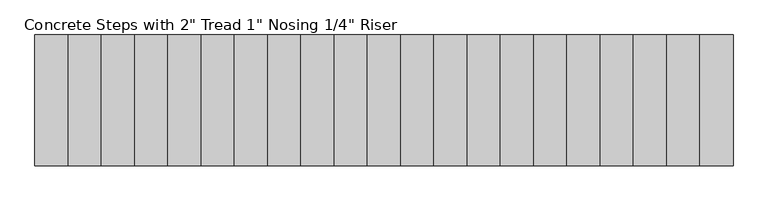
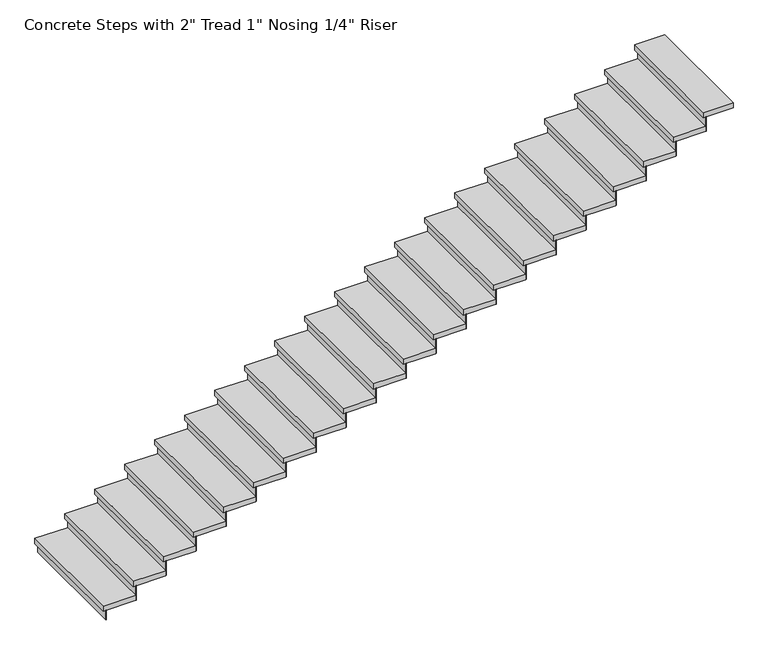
"""IFC4 building model written with IfcOpenShell, lengths in millimetres: stair flight geometry."""

from ifc_helpers import new_model, si_unit, frame, origin, origin_with_axes, place, context, project, spatial, polyline, outline, extrude, source, transform, mapped, element, save


def stair_flight_f9da9db6(model_context):
    return source(origin(), model_context, "Body", "SweptSolid", [
        extrude(outline(polyline([(-38912.5313244, -18551.5554387), (-38918.8813244, -18551.5554387), (-38918.8813244, -17453.1554387), (-38912.5313244, -17453.1554387), (-38912.5313244, -18551.5554387)])), origin_with_axes(), (0.0, 0.0, 1.0), 94.3428571),
        extrude(outline(polyline([(-38639.4813244, -17453.1554387), (-38639.4813244, -18551.5554387), (-38944.2813244, -18551.5554387), (-38944.2813244, -17453.1554387), (-38639.4813244, -17453.1554387)])), frame((0.0, 0.0, 94.3428571), z_axis=(0.0, 0.0, 1.0), x_axis=(1.0, 0.0, 0.0)), (0.0, 0.0, 1.0), 50.8),
        extrude(outline(polyline([(-38633.1313244, -18551.5554387), (-38639.4813244, -18551.5554387), (-38639.4813244, -17453.1554387), (-38633.1313244, -17453.1554387), (-38633.1313244, -18551.5554387)])), frame((0.0, 0.0, 94.3428571), z_axis=(0.0, 0.0, 1.0), x_axis=(1.0, 0.0, 0.0)), (0.0, 0.0, 1.0), 145.1428571),
        extrude(outline(polyline([(-38360.0813244, -17453.1554387), (-38360.0813244, -18551.5554387), (-38664.8813244, -18551.5554387), (-38664.8813244, -17453.1554387), (-38360.0813244, -17453.1554387)])), frame((0.0, 0.0, 239.4857143), z_axis=(0.0, 0.0, 1.0), x_axis=(1.0, 0.0, 0.0)), (0.0, 0.0, 1.0), 50.8),
        extrude(outline(polyline([(-38353.7313244, -18551.5554387), (-38360.0813244, -18551.5554387), (-38360.0813244, -17453.1554387), (-38353.7313244, -17453.1554387), (-38353.7313244, -18551.5554387)])), frame((0.0, 0.0, 239.4857143), z_axis=(0.0, 0.0, 1.0), x_axis=(1.0, 0.0, 0.0)), (0.0, 0.0, 1.0), 145.1428571),
        extrude(outline(polyline([(-38080.6813244, -17453.1554387), (-38080.6813244, -18551.5554387), (-38385.4813244, -18551.5554387), (-38385.4813244, -17453.1554387), (-38080.6813244, -17453.1554387)])), frame((0.0, 0.0, 384.6285714), z_axis=(0.0, 0.0, 1.0), x_axis=(1.0, 0.0, 0.0)), (0.0, 0.0, 1.0), 50.8),
        extrude(outline(polyline([(-38074.3313244, -18551.5554387), (-38080.6813244, -18551.5554387), (-38080.6813244, -17453.1554387), (-38074.3313244, -17453.1554387), (-38074.3313244, -18551.5554387)])), frame((0.0, 0.0, 384.6285714), z_axis=(0.0, 0.0, 1.0), x_axis=(1.0, 0.0, 0.0)), (0.0, 0.0, 1.0), 145.1428571),
        extrude(outline(polyline([(-37801.2813244, -17453.1554387), (-37801.2813244, -18551.5554387), (-38106.0813244, -18551.5554387), (-38106.0813244, -17453.1554387), (-37801.2813244, -17453.1554387)])), frame((0.0, 0.0, 529.7714286), z_axis=(0.0, 0.0, 1.0), x_axis=(1.0, 0.0, 0.0)), (0.0, 0.0, 1.0), 50.8),
        extrude(outline(polyline([(-37794.9313244, -18551.5554387), (-37801.2813244, -18551.5554387), (-37801.2813244, -17453.1554387), (-37794.9313244, -17453.1554387), (-37794.9313244, -18551.5554387)])), frame((0.0, 0.0, 529.7714286), z_axis=(0.0, 0.0, 1.0), x_axis=(1.0, 0.0, 0.0)), (0.0, 0.0, 1.0), 145.1428571),
        extrude(outline(polyline([(-37521.8813244, -17453.1554387), (-37521.8813244, -18551.5554387), (-37826.6813244, -18551.5554387), (-37826.6813244, -17453.1554387), (-37521.8813244, -17453.1554387)])), frame((0.0, 0.0, 674.9142857), z_axis=(0.0, 0.0, 1.0), x_axis=(1.0, 0.0, 0.0)), (0.0, 0.0, 1.0), 50.8),
        extrude(outline(polyline([(-37515.5313244, -18551.5554387), (-37521.8813244, -18551.5554387), (-37521.8813244, -17453.1554387), (-37515.5313244, -17453.1554387), (-37515.5313244, -18551.5554387)])), frame((0.0, 0.0, 674.9142857), z_axis=(0.0, 0.0, 1.0), x_axis=(1.0, 0.0, 0.0)), (0.0, 0.0, 1.0), 145.1428571),
        extrude(outline(polyline([(-37242.4813244, -17453.1554387), (-37242.4813244, -18551.5554387), (-37547.2813244, -18551.5554387), (-37547.2813244, -17453.1554387), (-37242.4813244, -17453.1554387)])), frame((0.0, 0.0, 820.0571429), z_axis=(0.0, 0.0, 1.0), x_axis=(1.0, 0.0, 0.0)), (0.0, 0.0, 1.0), 50.8),
        extrude(outline(polyline([(-37236.1313244, -18551.5554387), (-37242.4813244, -18551.5554387), (-37242.4813244, -17453.1554387), (-37236.1313244, -17453.1554387), (-37236.1313244, -18551.5554387)])), frame((0.0, 0.0, 820.0571429), z_axis=(0.0, 0.0, 1.0), x_axis=(1.0, 0.0, 0.0)), (0.0, 0.0, 1.0), 145.1428571),
        extrude(outline(polyline([(-36963.0813244, -17453.1554387), (-36963.0813244, -18551.5554387), (-37267.8813244, -18551.5554387), (-37267.8813244, -17453.1554387), (-36963.0813244, -17453.1554387)])), frame((0.0, 0.0, 965.2), z_axis=(0.0, 0.0, 1.0), x_axis=(1.0, 0.0, 0.0)), (0.0, 0.0, 1.0), 50.8),
        extrude(outline(polyline([(-36956.7313244, -18551.5554387), (-36963.0813244, -18551.5554387), (-36963.0813244, -17453.1554387), (-36956.7313244, -17453.1554387), (-36956.7313244, -18551.5554387)])), frame((0.0, 0.0, 965.2), z_axis=(0.0, 0.0, 1.0), x_axis=(1.0, 0.0, 0.0)), (0.0, 0.0, 1.0), 145.1428571),
        extrude(outline(polyline([(-36683.6813244, -17453.1554387), (-36683.6813244, -18551.5554387), (-36988.4813244, -18551.5554387), (-36988.4813244, -17453.1554387), (-36683.6813244, -17453.1554387)])), frame((0.0, 0.0, 1110.3428571), z_axis=(0.0, 0.0, 1.0), x_axis=(1.0, 0.0, 0.0)), (0.0, 0.0, 1.0), 50.8),
        extrude(outline(polyline([(-36677.3313244, -18551.5554387), (-36683.6813244, -18551.5554387), (-36683.6813244, -17453.1554387), (-36677.3313244, -17453.1554387), (-36677.3313244, -18551.5554387)])), frame((0.0, 0.0, 1110.3428571), z_axis=(0.0, 0.0, 1.0), x_axis=(1.0, 0.0, 0.0)), (0.0, 0.0, 1.0), 145.1428571),
        extrude(outline(polyline([(-36404.2813244, -17453.1554387), (-36404.2813244, -18551.5554387), (-36709.0813244, -18551.5554387), (-36709.0813244, -17453.1554387), (-36404.2813244, -17453.1554387)])), frame((0.0, 0.0, 1255.4857143), z_axis=(0.0, 0.0, 1.0), x_axis=(1.0, 0.0, 0.0)), (0.0, 0.0, 1.0), 50.8),
        extrude(outline(polyline([(-36397.9313244, -18551.5554387), (-36404.2813244, -18551.5554387), (-36404.2813244, -17453.1554387), (-36397.9313244, -17453.1554387), (-36397.9313244, -18551.5554387)])), frame((0.0, 0.0, 1255.4857143), z_axis=(0.0, 0.0, 1.0), x_axis=(1.0, 0.0, 0.0)), (0.0, 0.0, 1.0), 145.1428571),
        extrude(outline(polyline([(-36124.8813244, -17453.1554387), (-36124.8813244, -18551.5554387), (-36429.6813244, -18551.5554387), (-36429.6813244, -17453.1554387), (-36124.8813244, -17453.1554387)])), frame((0.0, 0.0, 1400.6285714), z_axis=(0.0, 0.0, 1.0), x_axis=(1.0, 0.0, 0.0)), (0.0, 0.0, 1.0), 50.8),
        extrude(outline(polyline([(-36118.5313244, -18551.5554387), (-36124.8813244, -18551.5554387), (-36124.8813244, -17453.1554387), (-36118.5313244, -17453.1554387), (-36118.5313244, -18551.5554387)])), frame((0.0, 0.0, 1400.6285714), z_axis=(0.0, 0.0, 1.0), x_axis=(1.0, 0.0, 0.0)), (0.0, 0.0, 1.0), 145.1428571),
        extrude(outline(polyline([(-35845.4813244, -17453.1554387), (-35845.4813244, -18551.5554387), (-36150.2813244, -18551.5554387), (-36150.2813244, -17453.1554387), (-35845.4813244, -17453.1554387)])), frame((0.0, 0.0, 1545.7714286), z_axis=(0.0, 0.0, 1.0), x_axis=(1.0, 0.0, 0.0)), (0.0, 0.0, 1.0), 50.8),
        extrude(outline(polyline([(-35839.1313244, -18551.5554387), (-35845.4813244, -18551.5554387), (-35845.4813244, -17453.1554387), (-35839.1313244, -17453.1554387), (-35839.1313244, -18551.5554387)])), frame((0.0, 0.0, 1545.7714286), z_axis=(0.0, 0.0, 1.0), x_axis=(1.0, 0.0, 0.0)), (0.0, 0.0, 1.0), 145.1428571),
        extrude(outline(polyline([(-35566.0813244, -17453.1554387), (-35566.0813244, -18551.5554387), (-35870.8813244, -18551.5554387), (-35870.8813244, -17453.1554387), (-35566.0813244, -17453.1554387)])), frame((0.0, 0.0, 1690.9142857), z_axis=(0.0, 0.0, 1.0), x_axis=(1.0, 0.0, 0.0)), (0.0, 0.0, 1.0), 50.8),
        extrude(outline(polyline([(-35559.7313244, -18551.5554387), (-35566.0813244, -18551.5554387), (-35566.0813244, -17453.1554387), (-35559.7313244, -17453.1554387), (-35559.7313244, -18551.5554387)])), frame((0.0, 0.0, 1690.9142857), z_axis=(0.0, 0.0, 1.0), x_axis=(1.0, 0.0, 0.0)), (0.0, 0.0, 1.0), 145.1428571),
        extrude(outline(polyline([(-35286.6813244, -17453.1554387), (-35286.6813244, -18551.5554387), (-35591.4813244, -18551.5554387), (-35591.4813244, -17453.1554387), (-35286.6813244, -17453.1554387)])), frame((0.0, 0.0, 1836.0571429), z_axis=(0.0, 0.0, 1.0), x_axis=(1.0, 0.0, 0.0)), (0.0, 0.0, 1.0), 50.8),
        extrude(outline(polyline([(-35280.3313244, -18551.5554387), (-35286.6813244, -18551.5554387), (-35286.6813244, -17453.1554387), (-35280.3313244, -17453.1554387), (-35280.3313244, -18551.5554387)])), frame((0.0, 0.0, 1836.0571429), z_axis=(0.0, 0.0, 1.0), x_axis=(1.0, 0.0, 0.0)), (0.0, 0.0, 1.0), 145.1428571),
        extrude(outline(polyline([(-35007.2813244, -17453.1554387), (-35007.2813244, -18551.5554387), (-35312.0813244, -18551.5554387), (-35312.0813244, -17453.1554387), (-35007.2813244, -17453.1554387)])), frame((0.0, 0.0, 1981.2), z_axis=(0.0, 0.0, 1.0), x_axis=(1.0, 0.0, 0.0)), (0.0, 0.0, 1.0), 50.8),
        extrude(outline(polyline([(-35000.9313244, -18551.5554387), (-35007.2813244, -18551.5554387), (-35007.2813244, -17453.1554387), (-35000.9313244, -17453.1554387), (-35000.9313244, -18551.5554387)])), frame((0.0, 0.0, 1981.2), z_axis=(0.0, 0.0, 1.0), x_axis=(1.0, 0.0, 0.0)), (0.0, 0.0, 1.0), 145.1428571),
        extrude(outline(polyline([(-34727.8813244, -17453.1554387), (-34727.8813244, -18551.5554387), (-35032.6813244, -18551.5554387), (-35032.6813244, -17453.1554387), (-34727.8813244, -17453.1554387)])), frame((0.0, 0.0, 2126.3428571), z_axis=(0.0, 0.0, 1.0), x_axis=(1.0, 0.0, 0.0)), (0.0, 0.0, 1.0), 50.8),
        extrude(outline(polyline([(-34721.5313244, -18551.5554387), (-34727.8813244, -18551.5554387), (-34727.8813244, -17453.1554387), (-34721.5313244, -17453.1554387), (-34721.5313244, -18551.5554387)])), frame((0.0, 0.0, 2126.3428571), z_axis=(0.0, 0.0, 1.0), x_axis=(1.0, 0.0, 0.0)), (0.0, 0.0, 1.0), 145.1428571),
        extrude(outline(polyline([(-34448.4813244, -17453.1554387), (-34448.4813244, -18551.5554387), (-34753.2813244, -18551.5554387), (-34753.2813244, -17453.1554387), (-34448.4813244, -17453.1554387)])), frame((0.0, 0.0, 2271.4857143), z_axis=(0.0, 0.0, 1.0), x_axis=(1.0, 0.0, 0.0)), (0.0, 0.0, 1.0), 50.8),
        extrude(outline(polyline([(-34442.1313244, -18551.5554387), (-34448.4813244, -18551.5554387), (-34448.4813244, -17453.1554387), (-34442.1313244, -17453.1554387), (-34442.1313244, -18551.5554387)])), frame((0.0, 0.0, 2271.4857143), z_axis=(0.0, 0.0, 1.0), x_axis=(1.0, 0.0, 0.0)), (0.0, 0.0, 1.0), 145.1428571),
        extrude(outline(polyline([(-34169.0813244, -17453.1554387), (-34169.0813244, -18551.5554387), (-34473.8813244, -18551.5554387), (-34473.8813244, -17453.1554387), (-34169.0813244, -17453.1554387)])), frame((0.0, 0.0, 2416.6285714), z_axis=(0.0, 0.0, 1.0), x_axis=(1.0, 0.0, 0.0)), (0.0, 0.0, 1.0), 50.8),
        extrude(outline(polyline([(-34162.7313244, -18551.5554387), (-34169.0813244, -18551.5554387), (-34169.0813244, -17453.1554387), (-34162.7313244, -17453.1554387), (-34162.7313244, -18551.5554387)])), frame((0.0, 0.0, 2416.6285714), z_axis=(0.0, 0.0, 1.0), x_axis=(1.0, 0.0, 0.0)), (0.0, 0.0, 1.0), 145.1428571),
        extrude(outline(polyline([(-33889.6813244, -17453.1554387), (-33889.6813244, -18551.5554387), (-34194.4813244, -18551.5554387), (-34194.4813244, -17453.1554387), (-33889.6813244, -17453.1554387)])), frame((0.0, 0.0, 2561.7714286), z_axis=(0.0, 0.0, 1.0), x_axis=(1.0, 0.0, 0.0)), (0.0, 0.0, 1.0), 50.8),
        extrude(outline(polyline([(-33883.3313244, -18551.5554387), (-33889.6813244, -18551.5554387), (-33889.6813244, -17453.1554387), (-33883.3313244, -17453.1554387), (-33883.3313244, -18551.5554387)])), frame((0.0, 0.0, 2561.7714286), z_axis=(0.0, 0.0, 1.0), x_axis=(1.0, 0.0, 0.0)), (0.0, 0.0, 1.0), 145.1428571),
        extrude(outline(polyline([(-33610.2813244, -17453.1554387), (-33610.2813244, -18551.5554387), (-33915.0813244, -18551.5554387), (-33915.0813244, -17453.1554387), (-33610.2813244, -17453.1554387)])), frame((0.0, 0.0, 2706.9142857), z_axis=(0.0, 0.0, 1.0), x_axis=(1.0, 0.0, 0.0)), (0.0, 0.0, 1.0), 50.8),
        extrude(outline(polyline([(-33603.9313244, -18551.5554387), (-33610.2813244, -18551.5554387), (-33610.2813244, -17453.1554387), (-33603.9313244, -17453.1554387), (-33603.9313244, -18551.5554387)])), frame((0.0, 0.0, 2706.9142857), z_axis=(0.0, 0.0, 1.0), x_axis=(1.0, 0.0, 0.0)), (0.0, 0.0, 1.0), 145.1428571),
        extrude(outline(polyline([(-33330.8813244, -17453.1554387), (-33330.8813244, -18551.5554387), (-33635.6813244, -18551.5554387), (-33635.6813244, -17453.1554387), (-33330.8813244, -17453.1554387)])), frame((0.0, 0.0, 2852.0571429), z_axis=(0.0, 0.0, 1.0), x_axis=(1.0, 0.0, 0.0)), (0.0, 0.0, 1.0), 50.8),
        extrude(outline(polyline([(-33324.5313244, -18551.5554387), (-33330.8813244, -18551.5554387), (-33330.8813244, -17453.1554387), (-33324.5313244, -17453.1554387), (-33324.5313244, -18551.5554387)])), frame((0.0, 0.0, 2852.0571429), z_axis=(0.0, 0.0, 1.0), x_axis=(1.0, 0.0, 0.0)), (0.0, 0.0, 1.0), 145.1428571),
        extrude(outline(polyline([(-33076.8813244, -17453.1554387), (-33076.8813244, -18551.5554387), (-33356.2813244, -18551.5554387), (-33356.2813244, -17453.1554387), (-33076.8813244, -17453.1554387)])), frame((0.0, 0.0, 2997.2), z_axis=(0.0, 0.0, 1.0), x_axis=(1.0, 0.0, 0.0)), (0.0, 0.0, 1.0), 50.8),
    ])


if __name__ == "__main__":
    model = new_model("IFC4")
    model_context = context("Model", 3, world=origin())
    ifc_project = project(units=[si_unit("LENGTHUNIT", "METRE", prefix="MILLI")], contexts=[model_context])
    site = spatial("IfcSite", under=ifc_project)
    building = spatial("IfcBuilding", under=site)
    placement = place(None, origin())
    stair_flight_shape = stair_flight_f9da9db6(model_context)
    element("IfcStairFlight", 1, ObjectType="Concrete Steps with 2\" Tread 1\" Nosing 1/4\" Riser", at=placement, inside=building, context=model_context, shape_type="MappedRepresentation", body=[
        mapped(stair_flight_shape, transform((0.0, 0.0, 0.0), x_axis=(1.0, 0.0, 0.0), y_axis=(0.0, 1.0, 0.0), z_axis=(0.0, 0.0, 1.0))),
    ])
    save(model, "model.ifc")
